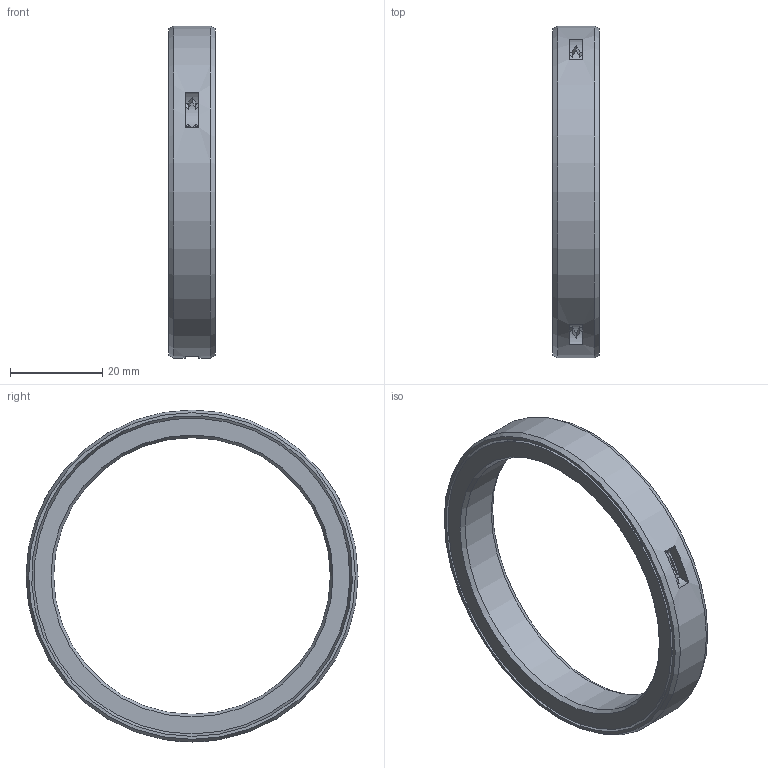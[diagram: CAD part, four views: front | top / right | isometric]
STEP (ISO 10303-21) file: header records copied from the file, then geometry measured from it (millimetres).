
FILE_DESCRIPTION(/* description */ (''),/* implementation_level */ '2;1');
FILE_NAME(/* name */ '301387 M 60x72x10.stp',/* time_stamp */ '2016-12-15T11:39:00+01:00',/* author */ (''),/* organization */ (''),/* preprocessor_version */ 'ST-DEVELOPER v15',/* originating_system */ 'SIEMENS PLM Software NX 8.5',/* authorisation */ '');
FILE_SCHEMA (('CONFIG_CONTROL_DESIGN'));
Length unit declared in the file: millimetre
Products named in the file (1): ATE0000124_01
Bounding box: 10 x 72 x 72 mm (x, y, z)
Volume: 10769.6 mm3; surface area: 11037.6 mm2
Topology: 2 solids, 2 shells, 49 faces, 143 edges, 94 vertices
Faces by surface type: cone 22, plane 16, cylinder 11
Full cylindrical faces by diameter (mm): 60 x1, 72 x1
Entity records: 1626 total; most frequent: CARTESIAN_POINT 396, ORIENTED_EDGE 240, DIRECTION 234, EDGE_CURVE 120, AXIS2_PLACEMENT_3D 114, VERTEX_POINT 84, CIRCLE 66, EDGE_LOOP 64
